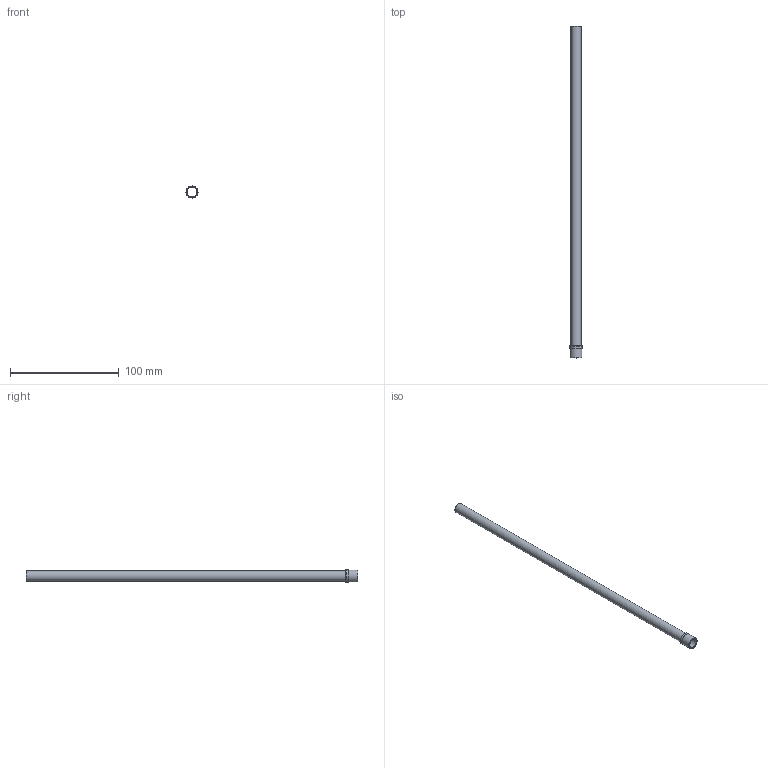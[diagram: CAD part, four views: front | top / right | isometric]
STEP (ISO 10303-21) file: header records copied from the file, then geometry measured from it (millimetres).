
FILE_DESCRIPTION(/* description */ (''),/* implementation_level */ '2;1');
FILE_NAME(/* name */ 'C:/Users/drich/Desktop/HF375T-12 v1.step',/* time_stamp */ '2019-12-30T13:26:57-06:00',/* author */ (''),/* organization */ (''),/* preprocessor_version */ 'ST-DEVELOPER v18',/* originating_system */ 'Autodesk Translation Framework v8.12.0.6',/* authorisation */ '');
FILE_SCHEMA (('AUTOMOTIVE_DESIGN { 1 0 10303 214 3 1 1 }'));
Length unit declared in the file: inch
Products named in the file (1): HF375T-12
Bounding box: 11.15 x 304.8 x 11.15 mm (x, y, z)
Volume: 3027.5 mm3; surface area: 17271.1 mm2
Topology: 1 solids, 1 shells, 12 faces, 30 edges, 22 vertices
Faces by surface type: plane 4, cylinder 4, torus 3, cone 1
Full cylindrical faces by diameter (mm): 8.636 x1, 9.271 x1, 10.978 x1, 11.151 x1
Entity records: 426 total; most frequent: DIRECTION 81, CARTESIAN_POINT 65, ORIENTED_EDGE 60, AXIS2_PLACEMENT_3D 38, EDGE_CURVE 30, CIRCLE 25, VERTEX_POINT 22, EDGE_LOOP 16
